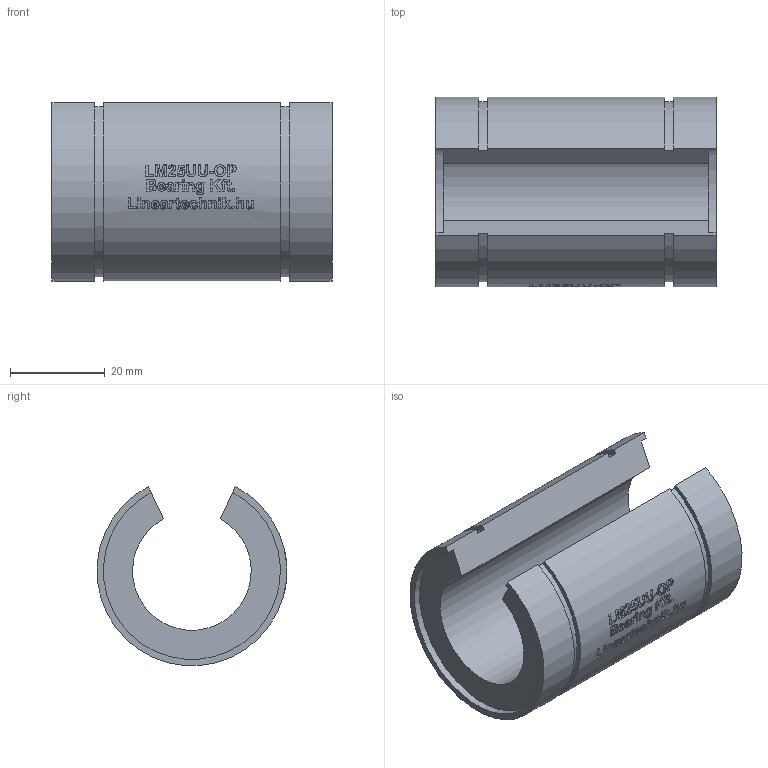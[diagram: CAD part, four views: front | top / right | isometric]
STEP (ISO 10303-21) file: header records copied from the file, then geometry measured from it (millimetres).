
FILE_DESCRIPTION(/* description */ (''),/* implementation_level */ '2;1');
FILE_NAME(/* name */ 'LM25UU-OP',/* time_stamp */ '2019-07-10T16:11:26+02:00',/* author */ ('VĂ©gh MĂˇtĂ©'),/* organization */ ('Bearing Kft'),/* preprocessor_version */ 'ST-DEVELOPER v16.7',/* originating_system */ 'DEX',/* authorisation */ $);
FILE_SCHEMA (('AUTOMOTIVE_DESIGN {1 0 10303 214 3 1 1}'));
Length unit declared in the file: millimetre
Products named in the file (1): LM25UU-OP
Bounding box: 59 x 39.96 x 37.7 mm (x, y, z)
Volume: 36279.5 mm3; surface area: 12849.8 mm2
Topology: 1 solids, 1 shells, 327 faces, 829 edges, 553 vertices
Faces by surface type: plane 171, bspline 99, cylinder 57
Entity records: 17260 total; most frequent: CARTESIAN_POINT 9861, ORIENTED_EDGE 1652, DIRECTION 1242, EDGE_CURVE 826, VERTEX_POINT 553, LINE 466, VECTOR 466, AXIS2_PLACEMENT_3D 388
